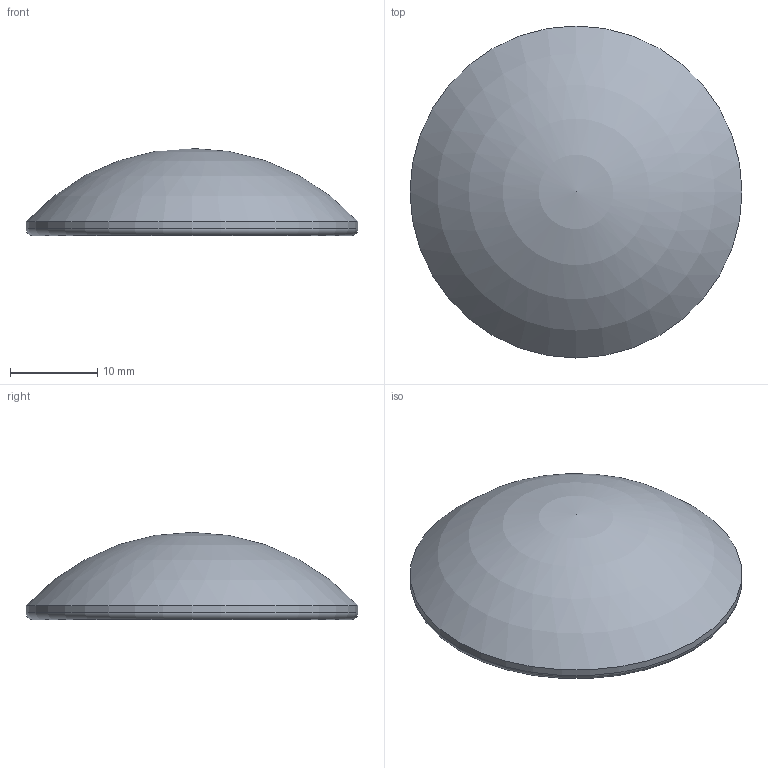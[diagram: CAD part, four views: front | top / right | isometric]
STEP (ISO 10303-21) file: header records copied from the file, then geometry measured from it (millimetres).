
FILE_DESCRIPTION(('Open CASCADE Model'),'2;1');
FILE_NAME('Open CASCADE Shape Model','2026-11-11T16:54:54',('Author'),( 'Open CASCADE'),'Open CASCADE STEP processor 7.9','Open CASCADE 7.9' ,'Unknown');
FILE_SCHEMA(('AUTOMOTIVE_DESIGN { 1 0 10303 214 1 1 1 1 }'));
Length unit declared in the file: millimetre
Products named in the file (1): Open CASCADE STEP translator 7.9 5
Bounding box: 38.1 x 38.1 x 10 mm (x, y, z)
Volume: 4083.4 mm3; surface area: 3497 mm2
Topology: 1 solids, 1 shells, 13 faces, 22 edges, 13 vertices
Faces by surface type: cylinder 5, plane 4, sphere 2, torus 1, cone 1
Full cylindrical faces by diameter (mm): 7.46 x1, 8.3 x1, 12 x1, 25 x1, 38.1 x1
Entity records: 589 total; most frequent: DIRECTION 106, CARTESIAN_POINT 90, ORIENTED_EDGE 42, PCURVE 42, DEFINITIONAL_REPRESENTATION 42, LINE 41, VECTOR 41, AXIS2_PLACEMENT_3D 29
